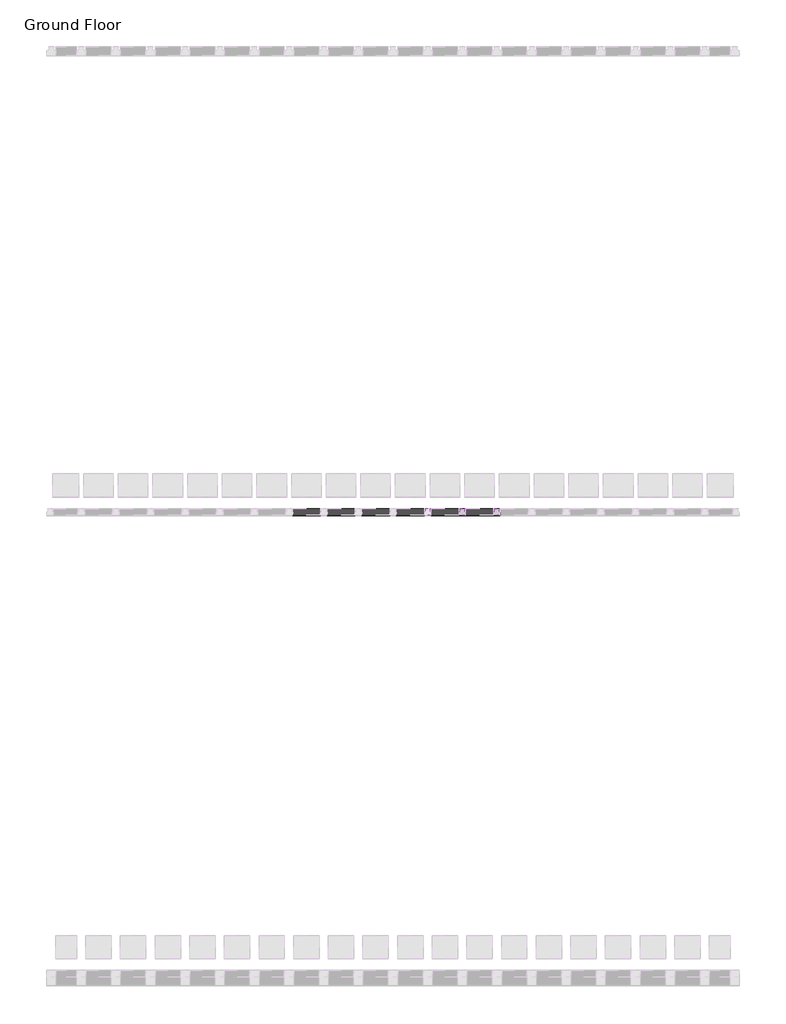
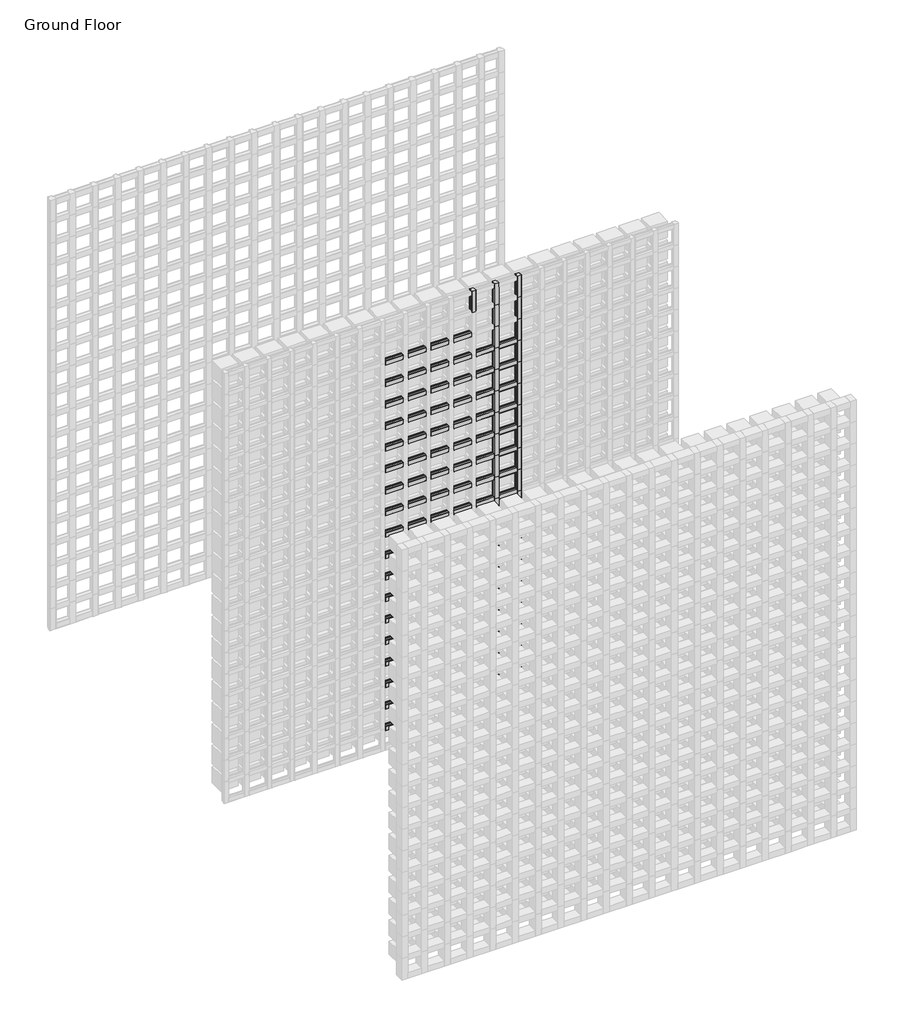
# One storey, part 140 of 350: 145 members.
"""IFC4 building model written with IfcOpenShell, lengths in millimetres."""

from ifc_helpers import new_model, si_unit, origin, place, context, project, spatial, transform, mapped, element, save
from components import rectangular_mullion_01bdf753, rectangular_mullion_f1976eb1

model = new_model("IFC4")

# Units and contexts
model_context = context("Model", 3, world=origin())
ifc_project = project(units=[si_unit("LENGTHUNIT", "METRE", prefix="MILLI")], contexts=[model_context])

# Site, building, storey
site = spatial("IfcSite", under=ifc_project)
building = spatial("IfcBuilding", under=site)
storey = spatial("IfcBuildingStorey", under=building, Name="Ground Floor", Elevation=0.0)

# Members
placement = place(None, origin())
rectangular_mullion_shape = rectangular_mullion_01bdf753(model_context)
element("IfcMember", 1, ObjectType="Rectangular Mullion : Batten_Timber_Modinex_Austratus_Grid_Fin_30x30_Hemlock", at=placement, inside=storey, context=model_context, shape_type="MappedRepresentation", body=[
    mapped(rectangular_mullion_shape, transform((11101.4361642, 42968.2978302, 150.0), x_axis=(0.0, 0.0, 1.0), y_axis=(0.0, -1.0, 0.0), z_axis=(1.0, 0.0, 0.0))),
])
element("IfcMember", 2, ObjectType="Rectangular Mullion : Batten_Timber_Modinex_Austratus_Grid_Fin_30x30_Hemlock", at=placement, inside=storey, context=model_context, shape_type="MappedRepresentation", body=[
    mapped(rectangular_mullion_shape, transform((11251.4361642, 42968.2978302, 150.0), x_axis=(0.0, 0.0, 1.0), y_axis=(0.0, -1.0, 0.0), z_axis=(1.0, 0.0, 0.0))),
])
element("IfcMember", 3, ObjectType="Rectangular Mullion : Batten_Timber_Modinex_Austratus_Grid_Fin_30x30_Hemlock", at=placement, inside=storey, context=model_context, shape_type="MappedRepresentation", body=[
    mapped(rectangular_mullion_shape, transform((11401.4361642, 42968.2978302, 150.0), x_axis=(0.0, 0.0, 1.0), y_axis=(0.0, -1.0, 0.0), z_axis=(1.0, 0.0, 0.0))),
])
element("IfcMember", 4, ObjectType="Rectangular Mullion : Batten_Timber_Modinex_Austratus_Grid_Fin_30x30_Hemlock", at=placement, inside=storey, context=model_context, shape_type="MappedRepresentation", body=[
    mapped(rectangular_mullion_shape, transform((11551.4361642, 42968.2978302, 150.0), x_axis=(0.0, 0.0, 1.0), y_axis=(0.0, -1.0, 0.0), z_axis=(1.0, 0.0, 0.0))),
])
element("IfcMember", 5, ObjectType="Rectangular Mullion : Batten_Timber_Modinex_Austratus_Grid_Fin_30x30_Hemlock", at=placement, inside=storey, context=model_context, shape_type="MappedRepresentation", body=[
    mapped(rectangular_mullion_shape, transform((11701.4361642, 42968.2978302, 150.0), x_axis=(0.0, 0.0, 1.0), y_axis=(0.0, -1.0, 0.0), z_axis=(1.0, 0.0, 0.0))),
])
element("IfcMember", 6, ObjectType="Rectangular Mullion : Batten_Timber_Modinex_Austratus_Grid_Fin_30x30_Hemlock", at=placement, inside=storey, context=model_context, shape_type="MappedRepresentation", body=[
    mapped(rectangular_mullion_shape, transform((11851.4361642, 42968.2978302, 150.0), x_axis=(0.0, 0.0, 1.0), y_axis=(0.0, -1.0, 0.0), z_axis=(1.0, 0.0, 0.0))),
])
element("IfcMember", 7, ObjectType="Rectangular Mullion : Batten_Timber_Modinex_Austratus_Grid_Fin_30x30_Hemlock", at=placement, inside=storey, context=model_context, shape_type="MappedRepresentation", body=[
    mapped(rectangular_mullion_shape, transform((11101.4361642, 42968.2978302, 300.0), x_axis=(0.0, 0.0, 1.0), y_axis=(0.0, -1.0, 0.0), z_axis=(1.0, 0.0, 0.0))),
])
element("IfcMember", 8, ObjectType="Rectangular Mullion : Batten_Timber_Modinex_Austratus_Grid_Fin_30x30_Hemlock", at=placement, inside=storey, context=model_context, shape_type="MappedRepresentation", body=[
    mapped(rectangular_mullion_shape, transform((11251.4361642, 42968.2978302, 300.0), x_axis=(0.0, 0.0, 1.0), y_axis=(0.0, -1.0, 0.0), z_axis=(1.0, 0.0, 0.0))),
])
element("IfcMember", 9, ObjectType="Rectangular Mullion : Batten_Timber_Modinex_Austratus_Grid_Fin_30x30_Hemlock", at=placement, inside=storey, context=model_context, shape_type="MappedRepresentation", body=[
    mapped(rectangular_mullion_shape, transform((11401.4361642, 42968.2978302, 300.0), x_axis=(0.0, 0.0, 1.0), y_axis=(0.0, -1.0, 0.0), z_axis=(1.0, 0.0, 0.0))),
])
element("IfcMember", 10, ObjectType="Rectangular Mullion : Batten_Timber_Modinex_Austratus_Grid_Fin_30x30_Hemlock", at=placement, inside=storey, context=model_context, shape_type="MappedRepresentation", body=[
    mapped(rectangular_mullion_shape, transform((11551.4361642, 42968.2978302, 300.0), x_axis=(0.0, 0.0, 1.0), y_axis=(0.0, -1.0, 0.0), z_axis=(1.0, 0.0, 0.0))),
])
element("IfcMember", 11, ObjectType="Rectangular Mullion : Batten_Timber_Modinex_Austratus_Grid_Fin_30x30_Hemlock", at=placement, inside=storey, context=model_context, shape_type="MappedRepresentation", body=[
    mapped(rectangular_mullion_shape, transform((11701.4361642, 42968.2978302, 300.0), x_axis=(0.0, 0.0, 1.0), y_axis=(0.0, -1.0, 0.0), z_axis=(1.0, 0.0, 0.0))),
])
element("IfcMember", 12, ObjectType="Rectangular Mullion : Batten_Timber_Modinex_Austratus_Grid_Fin_30x30_Hemlock", at=placement, inside=storey, context=model_context, shape_type="MappedRepresentation", body=[
    mapped(rectangular_mullion_shape, transform((11851.4361642, 42968.2978302, 300.0), x_axis=(0.0, 0.0, 1.0), y_axis=(0.0, -1.0, 0.0), z_axis=(1.0, 0.0, 0.0))),
])
element("IfcMember", 13, ObjectType="Rectangular Mullion : Batten_Timber_Modinex_Austratus_Grid_Fin_30x30_Hemlock", at=placement, inside=storey, context=model_context, shape_type="MappedRepresentation", body=[
    mapped(rectangular_mullion_shape, transform((11101.4361642, 42968.2978302, 450.0), x_axis=(0.0, 0.0, 1.0), y_axis=(0.0, -1.0, 0.0), z_axis=(1.0, 0.0, 0.0))),
])
element("IfcMember", 14, ObjectType="Rectangular Mullion : Batten_Timber_Modinex_Austratus_Grid_Fin_30x30_Hemlock", at=placement, inside=storey, context=model_context, shape_type="MappedRepresentation", body=[
    mapped(rectangular_mullion_shape, transform((11251.4361642, 42968.2978302, 450.0), x_axis=(0.0, 0.0, 1.0), y_axis=(0.0, -1.0, 0.0), z_axis=(1.0, 0.0, 0.0))),
])
element("IfcMember", 15, ObjectType="Rectangular Mullion : Batten_Timber_Modinex_Austratus_Grid_Fin_30x30_Hemlock", at=placement, inside=storey, context=model_context, shape_type="MappedRepresentation", body=[
    mapped(rectangular_mullion_shape, transform((11401.4361642, 42968.2978302, 450.0), x_axis=(0.0, 0.0, 1.0), y_axis=(0.0, -1.0, 0.0), z_axis=(1.0, 0.0, 0.0))),
])
element("IfcMember", 16, ObjectType="Rectangular Mullion : Batten_Timber_Modinex_Austratus_Grid_Fin_30x30_Hemlock", at=placement, inside=storey, context=model_context, shape_type="MappedRepresentation", body=[
    mapped(rectangular_mullion_shape, transform((11551.4361642, 42968.2978302, 450.0), x_axis=(0.0, 0.0, 1.0), y_axis=(0.0, -1.0, 0.0), z_axis=(1.0, 0.0, 0.0))),
])
element("IfcMember", 17, ObjectType="Rectangular Mullion : Batten_Timber_Modinex_Austratus_Grid_Fin_30x30_Hemlock", at=placement, inside=storey, context=model_context, shape_type="MappedRepresentation", body=[
    mapped(rectangular_mullion_shape, transform((11701.4361642, 42968.2978302, 450.0), x_axis=(0.0, 0.0, 1.0), y_axis=(0.0, -1.0, 0.0), z_axis=(1.0, 0.0, 0.0))),
])
element("IfcMember", 18, ObjectType="Rectangular Mullion : Batten_Timber_Modinex_Austratus_Grid_Fin_30x30_Hemlock", at=placement, inside=storey, context=model_context, shape_type="MappedRepresentation", body=[
    mapped(rectangular_mullion_shape, transform((11851.4361642, 42968.2978302, 450.0), x_axis=(0.0, 0.0, 1.0), y_axis=(0.0, -1.0, 0.0), z_axis=(1.0, 0.0, 0.0))),
])
element("IfcMember", 19, ObjectType="Rectangular Mullion : Batten_Timber_Modinex_Austratus_Grid_Fin_30x30_Hemlock", at=placement, inside=storey, context=model_context, shape_type="MappedRepresentation", body=[
    mapped(rectangular_mullion_shape, transform((11101.4361642, 42968.2978302, 600.0), x_axis=(0.0, 0.0, 1.0), y_axis=(0.0, -1.0, 0.0), z_axis=(1.0, 0.0, 0.0))),
])
element("IfcMember", 20, ObjectType="Rectangular Mullion : Batten_Timber_Modinex_Austratus_Grid_Fin_30x30_Hemlock", at=placement, inside=storey, context=model_context, shape_type="MappedRepresentation", body=[
    mapped(rectangular_mullion_shape, transform((11251.4361642, 42968.2978302, 600.0), x_axis=(0.0, 0.0, 1.0), y_axis=(0.0, -1.0, 0.0), z_axis=(1.0, 0.0, 0.0))),
])
element("IfcMember", 21, ObjectType="Rectangular Mullion : Batten_Timber_Modinex_Austratus_Grid_Fin_30x30_Hemlock", at=placement, inside=storey, context=model_context, shape_type="MappedRepresentation", body=[
    mapped(rectangular_mullion_shape, transform((11401.4361642, 42968.2978302, 600.0), x_axis=(0.0, 0.0, 1.0), y_axis=(0.0, -1.0, 0.0), z_axis=(1.0, 0.0, 0.0))),
])
element("IfcMember", 22, ObjectType="Rectangular Mullion : Batten_Timber_Modinex_Austratus_Grid_Fin_30x30_Hemlock", at=placement, inside=storey, context=model_context, shape_type="MappedRepresentation", body=[
    mapped(rectangular_mullion_shape, transform((11551.4361642, 42968.2978302, 600.0), x_axis=(0.0, 0.0, 1.0), y_axis=(0.0, -1.0, 0.0), z_axis=(1.0, 0.0, 0.0))),
])
element("IfcMember", 23, ObjectType="Rectangular Mullion : Batten_Timber_Modinex_Austratus_Grid_Fin_30x30_Hemlock", at=placement, inside=storey, context=model_context, shape_type="MappedRepresentation", body=[
    mapped(rectangular_mullion_shape, transform((11701.4361642, 42968.2978302, 600.0), x_axis=(0.0, 0.0, 1.0), y_axis=(0.0, -1.0, 0.0), z_axis=(1.0, 0.0, 0.0))),
])
element("IfcMember", 24, ObjectType="Rectangular Mullion : Batten_Timber_Modinex_Austratus_Grid_Fin_30x30_Hemlock", at=placement, inside=storey, context=model_context, shape_type="MappedRepresentation", body=[
    mapped(rectangular_mullion_shape, transform((11851.4361642, 42968.2978302, 600.0), x_axis=(0.0, 0.0, 1.0), y_axis=(0.0, -1.0, 0.0), z_axis=(1.0, 0.0, 0.0))),
])
element("IfcMember", 25, ObjectType="Rectangular Mullion : Batten_Timber_Modinex_Austratus_Grid_Fin_30x30_Hemlock", at=placement, inside=storey, context=model_context, shape_type="MappedRepresentation", body=[
    mapped(rectangular_mullion_shape, transform((11101.4361642, 42968.2978302, 750.0), x_axis=(0.0, 0.0, 1.0), y_axis=(0.0, -1.0, 0.0), z_axis=(1.0, 0.0, 0.0))),
])
element("IfcMember", 26, ObjectType="Rectangular Mullion : Batten_Timber_Modinex_Austratus_Grid_Fin_30x30_Hemlock", at=placement, inside=storey, context=model_context, shape_type="MappedRepresentation", body=[
    mapped(rectangular_mullion_shape, transform((11251.4361642, 42968.2978302, 750.0), x_axis=(0.0, 0.0, 1.0), y_axis=(0.0, -1.0, 0.0), z_axis=(1.0, 0.0, 0.0))),
])
element("IfcMember", 27, ObjectType="Rectangular Mullion : Batten_Timber_Modinex_Austratus_Grid_Fin_30x30_Hemlock", at=placement, inside=storey, context=model_context, shape_type="MappedRepresentation", body=[
    mapped(rectangular_mullion_shape, transform((11401.4361642, 42968.2978302, 750.0), x_axis=(0.0, 0.0, 1.0), y_axis=(0.0, -1.0, 0.0), z_axis=(1.0, 0.0, 0.0))),
])
element("IfcMember", 28, ObjectType="Rectangular Mullion : Batten_Timber_Modinex_Austratus_Grid_Fin_30x30_Hemlock", at=placement, inside=storey, context=model_context, shape_type="MappedRepresentation", body=[
    mapped(rectangular_mullion_shape, transform((11551.4361642, 42968.2978302, 750.0), x_axis=(0.0, 0.0, 1.0), y_axis=(0.0, -1.0, 0.0), z_axis=(1.0, 0.0, 0.0))),
])
element("IfcMember", 29, ObjectType="Rectangular Mullion : Batten_Timber_Modinex_Austratus_Grid_Fin_30x30_Hemlock", at=placement, inside=storey, context=model_context, shape_type="MappedRepresentation", body=[
    mapped(rectangular_mullion_shape, transform((11701.4361642, 42968.2978302, 750.0), x_axis=(0.0, 0.0, 1.0), y_axis=(0.0, -1.0, 0.0), z_axis=(1.0, 0.0, 0.0))),
])
element("IfcMember", 30, ObjectType="Rectangular Mullion : Batten_Timber_Modinex_Austratus_Grid_Fin_30x30_Hemlock", at=placement, inside=storey, context=model_context, shape_type="MappedRepresentation", body=[
    mapped(rectangular_mullion_shape, transform((11851.4361642, 42968.2978302, 750.0), x_axis=(0.0, 0.0, 1.0), y_axis=(0.0, -1.0, 0.0), z_axis=(1.0, 0.0, 0.0))),
])
element("IfcMember", 31, ObjectType="Rectangular Mullion : Batten_Timber_Modinex_Austratus_Grid_Fin_30x30_Hemlock", at=placement, inside=storey, context=model_context, shape_type="MappedRepresentation", body=[
    mapped(rectangular_mullion_shape, transform((11101.4361642, 42968.2978302, 900.0), x_axis=(0.0, 0.0, 1.0), y_axis=(0.0, -1.0, 0.0), z_axis=(1.0, 0.0, 0.0))),
])
element("IfcMember", 32, ObjectType="Rectangular Mullion : Batten_Timber_Modinex_Austratus_Grid_Fin_30x30_Hemlock", at=placement, inside=storey, context=model_context, shape_type="MappedRepresentation", body=[
    mapped(rectangular_mullion_shape, transform((11251.4361642, 42968.2978302, 900.0), x_axis=(0.0, 0.0, 1.0), y_axis=(0.0, -1.0, 0.0), z_axis=(1.0, 0.0, 0.0))),
])
element("IfcMember", 33, ObjectType="Rectangular Mullion : Batten_Timber_Modinex_Austratus_Grid_Fin_30x30_Hemlock", at=placement, inside=storey, context=model_context, shape_type="MappedRepresentation", body=[
    mapped(rectangular_mullion_shape, transform((11401.4361642, 42968.2978302, 900.0), x_axis=(0.0, 0.0, 1.0), y_axis=(0.0, -1.0, 0.0), z_axis=(1.0, 0.0, 0.0))),
])
element("IfcMember", 34, ObjectType="Rectangular Mullion : Batten_Timber_Modinex_Austratus_Grid_Fin_30x30_Hemlock", at=placement, inside=storey, context=model_context, shape_type="MappedRepresentation", body=[
    mapped(rectangular_mullion_shape, transform((11551.4361642, 42968.2978302, 900.0), x_axis=(0.0, 0.0, 1.0), y_axis=(0.0, -1.0, 0.0), z_axis=(1.0, 0.0, 0.0))),
])
element("IfcMember", 35, ObjectType="Rectangular Mullion : Batten_Timber_Modinex_Austratus_Grid_Fin_30x30_Hemlock", at=placement, inside=storey, context=model_context, shape_type="MappedRepresentation", body=[
    mapped(rectangular_mullion_shape, transform((11701.4361642, 42968.2978302, 900.0), x_axis=(0.0, 0.0, 1.0), y_axis=(0.0, -1.0, 0.0), z_axis=(1.0, 0.0, 0.0))),
])
element("IfcMember", 36, ObjectType="Rectangular Mullion : Batten_Timber_Modinex_Austratus_Grid_Fin_30x30_Hemlock", at=placement, inside=storey, context=model_context, shape_type="MappedRepresentation", body=[
    mapped(rectangular_mullion_shape, transform((11851.4361642, 42968.2978302, 900.0), x_axis=(0.0, 0.0, 1.0), y_axis=(0.0, -1.0, 0.0), z_axis=(1.0, 0.0, 0.0))),
])
element("IfcMember", 37, ObjectType="Rectangular Mullion : Batten_Timber_Modinex_Austratus_Grid_Fin_30x30_Hemlock", at=placement, inside=storey, context=model_context, shape_type="MappedRepresentation", body=[
    mapped(rectangular_mullion_shape, transform((11101.4361642, 42968.2978302, 1050.0), x_axis=(0.0, 0.0, 1.0), y_axis=(0.0, -1.0, 0.0), z_axis=(1.0, 0.0, 0.0))),
])
element("IfcMember", 38, ObjectType="Rectangular Mullion : Batten_Timber_Modinex_Austratus_Grid_Fin_30x30_Hemlock", at=placement, inside=storey, context=model_context, shape_type="MappedRepresentation", body=[
    mapped(rectangular_mullion_shape, transform((11251.4361642, 42968.2978302, 1050.0), x_axis=(0.0, 0.0, 1.0), y_axis=(0.0, -1.0, 0.0), z_axis=(1.0, 0.0, 0.0))),
])
element("IfcMember", 39, ObjectType="Rectangular Mullion : Batten_Timber_Modinex_Austratus_Grid_Fin_30x30_Hemlock", at=placement, inside=storey, context=model_context, shape_type="MappedRepresentation", body=[
    mapped(rectangular_mullion_shape, transform((11401.4361642, 42968.2978302, 1050.0), x_axis=(0.0, 0.0, 1.0), y_axis=(0.0, -1.0, 0.0), z_axis=(1.0, 0.0, 0.0))),
])
element("IfcMember", 40, ObjectType="Rectangular Mullion : Batten_Timber_Modinex_Austratus_Grid_Fin_30x30_Hemlock", at=placement, inside=storey, context=model_context, shape_type="MappedRepresentation", body=[
    mapped(rectangular_mullion_shape, transform((11551.4361642, 42968.2978302, 1050.0), x_axis=(0.0, 0.0, 1.0), y_axis=(0.0, -1.0, 0.0), z_axis=(1.0, 0.0, 0.0))),
])
element("IfcMember", 41, ObjectType="Rectangular Mullion : Batten_Timber_Modinex_Austratus_Grid_Fin_30x30_Hemlock", at=placement, inside=storey, context=model_context, shape_type="MappedRepresentation", body=[
    mapped(rectangular_mullion_shape, transform((11701.4361642, 42968.2978302, 1050.0), x_axis=(0.0, 0.0, 1.0), y_axis=(0.0, -1.0, 0.0), z_axis=(1.0, 0.0, 0.0))),
])
element("IfcMember", 42, ObjectType="Rectangular Mullion : Batten_Timber_Modinex_Austratus_Grid_Fin_30x30_Hemlock", at=placement, inside=storey, context=model_context, shape_type="MappedRepresentation", body=[
    mapped(rectangular_mullion_shape, transform((11851.4361642, 42968.2978302, 1050.0), x_axis=(0.0, 0.0, 1.0), y_axis=(0.0, -1.0, 0.0), z_axis=(1.0, 0.0, 0.0))),
])
element("IfcMember", 43, ObjectType="Rectangular Mullion : Batten_Timber_Modinex_Austratus_Grid_Fin_30x30_Hemlock", at=placement, inside=storey, context=model_context, shape_type="MappedRepresentation", body=[
    mapped(rectangular_mullion_shape, transform((11101.4361642, 42968.2978302, 1200.0), x_axis=(0.0, 0.0, 1.0), y_axis=(0.0, -1.0, 0.0), z_axis=(1.0, 0.0, 0.0))),
])
element("IfcMember", 44, ObjectType="Rectangular Mullion : Batten_Timber_Modinex_Austratus_Grid_Fin_30x30_Hemlock", at=placement, inside=storey, context=model_context, shape_type="MappedRepresentation", body=[
    mapped(rectangular_mullion_shape, transform((11251.4361642, 42968.2978302, 1200.0), x_axis=(0.0, 0.0, 1.0), y_axis=(0.0, -1.0, 0.0), z_axis=(1.0, 0.0, 0.0))),
])
element("IfcMember", 45, ObjectType="Rectangular Mullion : Batten_Timber_Modinex_Austratus_Grid_Fin_30x30_Hemlock", at=placement, inside=storey, context=model_context, shape_type="MappedRepresentation", body=[
    mapped(rectangular_mullion_shape, transform((11401.4361642, 42968.2978302, 1200.0), x_axis=(0.0, 0.0, 1.0), y_axis=(0.0, -1.0, 0.0), z_axis=(1.0, 0.0, 0.0))),
])
element("IfcMember", 46, ObjectType="Rectangular Mullion : Batten_Timber_Modinex_Austratus_Grid_Fin_30x30_Hemlock", at=placement, inside=storey, context=model_context, shape_type="MappedRepresentation", body=[
    mapped(rectangular_mullion_shape, transform((11551.4361642, 42968.2978302, 1200.0), x_axis=(0.0, 0.0, 1.0), y_axis=(0.0, -1.0, 0.0), z_axis=(1.0, 0.0, 0.0))),
])
element("IfcMember", 47, ObjectType="Rectangular Mullion : Batten_Timber_Modinex_Austratus_Grid_Fin_30x30_Hemlock", at=placement, inside=storey, context=model_context, shape_type="MappedRepresentation", body=[
    mapped(rectangular_mullion_shape, transform((11701.4361642, 42968.2978302, 1200.0), x_axis=(0.0, 0.0, 1.0), y_axis=(0.0, -1.0, 0.0), z_axis=(1.0, 0.0, 0.0))),
])
element("IfcMember", 48, ObjectType="Rectangular Mullion : Batten_Timber_Modinex_Austratus_Grid_Fin_30x30_Hemlock", at=placement, inside=storey, context=model_context, shape_type="MappedRepresentation", body=[
    mapped(rectangular_mullion_shape, transform((11851.4361642, 42968.2978302, 1200.0), x_axis=(0.0, 0.0, 1.0), y_axis=(0.0, -1.0, 0.0), z_axis=(1.0, 0.0, 0.0))),
])
element("IfcMember", 49, ObjectType="Rectangular Mullion : Batten_Timber_Modinex_Austratus_Grid_Fin_30x30_Hemlock", at=placement, inside=storey, context=model_context, shape_type="MappedRepresentation", body=[
    mapped(rectangular_mullion_shape, transform((11101.4361642, 42968.2978302, 1350.0), x_axis=(0.0, 0.0, 1.0), y_axis=(0.0, -1.0, 0.0), z_axis=(1.0, 0.0, 0.0))),
])
element("IfcMember", 50, ObjectType="Rectangular Mullion : Batten_Timber_Modinex_Austratus_Grid_Fin_30x30_Hemlock", at=placement, inside=storey, context=model_context, shape_type="MappedRepresentation", body=[
    mapped(rectangular_mullion_shape, transform((11251.4361642, 42968.2978302, 1350.0), x_axis=(0.0, 0.0, 1.0), y_axis=(0.0, -1.0, 0.0), z_axis=(1.0, 0.0, 0.0))),
])
element("IfcMember", 51, ObjectType="Rectangular Mullion : Batten_Timber_Modinex_Austratus_Grid_Fin_30x30_Hemlock", at=placement, inside=storey, context=model_context, shape_type="MappedRepresentation", body=[
    mapped(rectangular_mullion_shape, transform((11401.4361642, 42968.2978302, 1350.0), x_axis=(0.0, 0.0, 1.0), y_axis=(0.0, -1.0, 0.0), z_axis=(1.0, 0.0, 0.0))),
])
element("IfcMember", 52, ObjectType="Rectangular Mullion : Batten_Timber_Modinex_Austratus_Grid_Fin_30x30_Hemlock", at=placement, inside=storey, context=model_context, shape_type="MappedRepresentation", body=[
    mapped(rectangular_mullion_shape, transform((11551.4361642, 42968.2978302, 1350.0), x_axis=(0.0, 0.0, 1.0), y_axis=(0.0, -1.0, 0.0), z_axis=(1.0, 0.0, 0.0))),
])
element("IfcMember", 53, ObjectType="Rectangular Mullion : Batten_Timber_Modinex_Austratus_Grid_Fin_30x30_Hemlock", at=placement, inside=storey, context=model_context, shape_type="MappedRepresentation", body=[
    mapped(rectangular_mullion_shape, transform((11701.4361642, 42968.2978302, 1350.0), x_axis=(0.0, 0.0, 1.0), y_axis=(0.0, -1.0, 0.0), z_axis=(1.0, 0.0, 0.0))),
])
element("IfcMember", 54, ObjectType="Rectangular Mullion : Batten_Timber_Modinex_Austratus_Grid_Fin_30x30_Hemlock", at=placement, inside=storey, context=model_context, shape_type="MappedRepresentation", body=[
    mapped(rectangular_mullion_shape, transform((11851.4361642, 42968.2978302, 1350.0), x_axis=(0.0, 0.0, 1.0), y_axis=(0.0, -1.0, 0.0), z_axis=(1.0, 0.0, 0.0))),
])
element("IfcMember", 55, ObjectType="Rectangular Mullion : Batten_Timber_Modinex_Austratus_Grid_Fin_30x30_Hemlock", at=placement, inside=storey, context=model_context, shape_type="MappedRepresentation", body=[
    mapped(rectangular_mullion_shape, transform((11101.4361642, 42968.2978302, 1500.0), x_axis=(0.0, 0.0, 1.0), y_axis=(0.0, -1.0, 0.0), z_axis=(1.0, 0.0, 0.0))),
])
element("IfcMember", 56, ObjectType="Rectangular Mullion : Batten_Timber_Modinex_Austratus_Grid_Fin_30x30_Hemlock", at=placement, inside=storey, context=model_context, shape_type="MappedRepresentation", body=[
    mapped(rectangular_mullion_shape, transform((11251.4361642, 42968.2978302, 1500.0), x_axis=(0.0, 0.0, 1.0), y_axis=(0.0, -1.0, 0.0), z_axis=(1.0, 0.0, 0.0))),
])
element("IfcMember", 57, ObjectType="Rectangular Mullion : Batten_Timber_Modinex_Austratus_Grid_Fin_30x30_Hemlock", at=placement, inside=storey, context=model_context, shape_type="MappedRepresentation", body=[
    mapped(rectangular_mullion_shape, transform((11401.4361642, 42968.2978302, 1500.0), x_axis=(0.0, 0.0, 1.0), y_axis=(0.0, -1.0, 0.0), z_axis=(1.0, 0.0, 0.0))),
])
element("IfcMember", 58, ObjectType="Rectangular Mullion : Batten_Timber_Modinex_Austratus_Grid_Fin_30x30_Hemlock", at=placement, inside=storey, context=model_context, shape_type="MappedRepresentation", body=[
    mapped(rectangular_mullion_shape, transform((11551.4361642, 42968.2978302, 1500.0), x_axis=(0.0, 0.0, 1.0), y_axis=(0.0, -1.0, 0.0), z_axis=(1.0, 0.0, 0.0))),
])
element("IfcMember", 59, ObjectType="Rectangular Mullion : Batten_Timber_Modinex_Austratus_Grid_Fin_30x30_Hemlock", at=placement, inside=storey, context=model_context, shape_type="MappedRepresentation", body=[
    mapped(rectangular_mullion_shape, transform((11701.4361642, 42968.2978302, 1500.0), x_axis=(0.0, 0.0, 1.0), y_axis=(0.0, -1.0, 0.0), z_axis=(1.0, 0.0, 0.0))),
])
element("IfcMember", 60, ObjectType="Rectangular Mullion : Batten_Timber_Modinex_Austratus_Grid_Fin_30x30_Hemlock", at=placement, inside=storey, context=model_context, shape_type="MappedRepresentation", body=[
    mapped(rectangular_mullion_shape, transform((11851.4361642, 42968.2978302, 1500.0), x_axis=(0.0, 0.0, 1.0), y_axis=(0.0, -1.0, 0.0), z_axis=(1.0, 0.0, 0.0))),
])
element("IfcMember", 61, ObjectType="Rectangular Mullion : Batten_Timber_Modinex_Austratus_Grid_Fin_30x30_Hemlock", at=placement, inside=storey, context=model_context, shape_type="MappedRepresentation", body=[
    mapped(rectangular_mullion_shape, transform((11101.4361642, 42968.2978302, 1650.0), x_axis=(0.0, 0.0, 1.0), y_axis=(0.0, -1.0, 0.0), z_axis=(1.0, 0.0, 0.0))),
])
element("IfcMember", 62, ObjectType="Rectangular Mullion : Batten_Timber_Modinex_Austratus_Grid_Fin_30x30_Hemlock", at=placement, inside=storey, context=model_context, shape_type="MappedRepresentation", body=[
    mapped(rectangular_mullion_shape, transform((11251.4361642, 42968.2978302, 1650.0), x_axis=(0.0, 0.0, 1.0), y_axis=(0.0, -1.0, 0.0), z_axis=(1.0, 0.0, 0.0))),
])
element("IfcMember", 63, ObjectType="Rectangular Mullion : Batten_Timber_Modinex_Austratus_Grid_Fin_30x30_Hemlock", at=placement, inside=storey, context=model_context, shape_type="MappedRepresentation", body=[
    mapped(rectangular_mullion_shape, transform((11401.4361642, 42968.2978302, 1650.0), x_axis=(0.0, 0.0, 1.0), y_axis=(0.0, -1.0, 0.0), z_axis=(1.0, 0.0, 0.0))),
])
element("IfcMember", 64, ObjectType="Rectangular Mullion : Batten_Timber_Modinex_Austratus_Grid_Fin_30x30_Hemlock", at=placement, inside=storey, context=model_context, shape_type="MappedRepresentation", body=[
    mapped(rectangular_mullion_shape, transform((11551.4361642, 42968.2978302, 1650.0), x_axis=(0.0, 0.0, 1.0), y_axis=(0.0, -1.0, 0.0), z_axis=(1.0, 0.0, 0.0))),
])
element("IfcMember", 65, ObjectType="Rectangular Mullion : Batten_Timber_Modinex_Austratus_Grid_Fin_30x30_Hemlock", at=placement, inside=storey, context=model_context, shape_type="MappedRepresentation", body=[
    mapped(rectangular_mullion_shape, transform((11701.4361642, 42968.2978302, 1650.0), x_axis=(0.0, 0.0, 1.0), y_axis=(0.0, -1.0, 0.0), z_axis=(1.0, 0.0, 0.0))),
])
element("IfcMember", 66, ObjectType="Rectangular Mullion : Batten_Timber_Modinex_Austratus_Grid_Fin_30x30_Hemlock", at=placement, inside=storey, context=model_context, shape_type="MappedRepresentation", body=[
    mapped(rectangular_mullion_shape, transform((11851.4361642, 42968.2978302, 1650.0), x_axis=(0.0, 0.0, 1.0), y_axis=(0.0, -1.0, 0.0), z_axis=(1.0, 0.0, 0.0))),
])
element("IfcMember", 67, ObjectType="Rectangular Mullion : Batten_Timber_Modinex_Austratus_Grid_Fin_30x30_Hemlock", at=placement, inside=storey, context=model_context, shape_type="MappedRepresentation", body=[
    mapped(rectangular_mullion_shape, transform((11101.4361642, 42968.2978302, 1800.0), x_axis=(0.0, 0.0, 1.0), y_axis=(0.0, -1.0, 0.0), z_axis=(1.0, 0.0, 0.0))),
])
element("IfcMember", 68, ObjectType="Rectangular Mullion : Batten_Timber_Modinex_Austratus_Grid_Fin_30x30_Hemlock", at=placement, inside=storey, context=model_context, shape_type="MappedRepresentation", body=[
    mapped(rectangular_mullion_shape, transform((11251.4361642, 42968.2978302, 1800.0), x_axis=(0.0, 0.0, 1.0), y_axis=(0.0, -1.0, 0.0), z_axis=(1.0, 0.0, 0.0))),
])
element("IfcMember", 69, ObjectType="Rectangular Mullion : Batten_Timber_Modinex_Austratus_Grid_Fin_30x30_Hemlock", at=placement, inside=storey, context=model_context, shape_type="MappedRepresentation", body=[
    mapped(rectangular_mullion_shape, transform((11401.4361642, 42968.2978302, 1800.0), x_axis=(0.0, 0.0, 1.0), y_axis=(0.0, -1.0, 0.0), z_axis=(1.0, 0.0, 0.0))),
])
element("IfcMember", 70, ObjectType="Rectangular Mullion : Batten_Timber_Modinex_Austratus_Grid_Fin_30x30_Hemlock", at=placement, inside=storey, context=model_context, shape_type="MappedRepresentation", body=[
    mapped(rectangular_mullion_shape, transform((11551.4361642, 42968.2978302, 1800.0), x_axis=(0.0, 0.0, 1.0), y_axis=(0.0, -1.0, 0.0), z_axis=(1.0, 0.0, 0.0))),
])
element("IfcMember", 71, ObjectType="Rectangular Mullion : Batten_Timber_Modinex_Austratus_Grid_Fin_30x30_Hemlock", at=placement, inside=storey, context=model_context, shape_type="MappedRepresentation", body=[
    mapped(rectangular_mullion_shape, transform((11701.4361642, 42968.2978302, 1800.0), x_axis=(0.0, 0.0, 1.0), y_axis=(0.0, -1.0, 0.0), z_axis=(1.0, 0.0, 0.0))),
])
element("IfcMember", 72, ObjectType="Rectangular Mullion : Batten_Timber_Modinex_Austratus_Grid_Fin_30x30_Hemlock", at=placement, inside=storey, context=model_context, shape_type="MappedRepresentation", body=[
    mapped(rectangular_mullion_shape, transform((11851.4361642, 42968.2978302, 1800.0), x_axis=(0.0, 0.0, 1.0), y_axis=(0.0, -1.0, 0.0), z_axis=(1.0, 0.0, 0.0))),
])
element("IfcMember", 73, ObjectType="Rectangular Mullion : Batten_Timber_Modinex_Austratus_Grid_Fin_30x30_Hemlock", at=placement, inside=storey, context=model_context, shape_type="MappedRepresentation", body=[
    mapped(rectangular_mullion_shape, transform((11101.4361642, 42968.2978302, 1950.0), x_axis=(0.0, 0.0, 1.0), y_axis=(0.0, -1.0, 0.0), z_axis=(1.0, 0.0, 0.0))),
])
element("IfcMember", 74, ObjectType="Rectangular Mullion : Batten_Timber_Modinex_Austratus_Grid_Fin_30x30_Hemlock", at=placement, inside=storey, context=model_context, shape_type="MappedRepresentation", body=[
    mapped(rectangular_mullion_shape, transform((11251.4361642, 42968.2978302, 1950.0), x_axis=(0.0, 0.0, 1.0), y_axis=(0.0, -1.0, 0.0), z_axis=(1.0, 0.0, 0.0))),
])
element("IfcMember", 75, ObjectType="Rectangular Mullion : Batten_Timber_Modinex_Austratus_Grid_Fin_30x30_Hemlock", at=placement, inside=storey, context=model_context, shape_type="MappedRepresentation", body=[
    mapped(rectangular_mullion_shape, transform((11401.4361642, 42968.2978302, 1950.0), x_axis=(0.0, 0.0, 1.0), y_axis=(0.0, -1.0, 0.0), z_axis=(1.0, 0.0, 0.0))),
])
element("IfcMember", 76, ObjectType="Rectangular Mullion : Batten_Timber_Modinex_Austratus_Grid_Fin_30x30_Hemlock", at=placement, inside=storey, context=model_context, shape_type="MappedRepresentation", body=[
    mapped(rectangular_mullion_shape, transform((11551.4361642, 42968.2978302, 1950.0), x_axis=(0.0, 0.0, 1.0), y_axis=(0.0, -1.0, 0.0), z_axis=(1.0, 0.0, 0.0))),
])
element("IfcMember", 77, ObjectType="Rectangular Mullion : Batten_Timber_Modinex_Austratus_Grid_Fin_30x30_Hemlock", at=placement, inside=storey, context=model_context, shape_type="MappedRepresentation", body=[
    mapped(rectangular_mullion_shape, transform((11701.4361642, 42968.2978302, 1950.0), x_axis=(0.0, 0.0, 1.0), y_axis=(0.0, -1.0, 0.0), z_axis=(1.0, 0.0, 0.0))),
])
element("IfcMember", 78, ObjectType="Rectangular Mullion : Batten_Timber_Modinex_Austratus_Grid_Fin_30x30_Hemlock", at=placement, inside=storey, context=model_context, shape_type="MappedRepresentation", body=[
    mapped(rectangular_mullion_shape, transform((11851.4361642, 42968.2978302, 1950.0), x_axis=(0.0, 0.0, 1.0), y_axis=(0.0, -1.0, 0.0), z_axis=(1.0, 0.0, 0.0))),
])
element("IfcMember", 79, ObjectType="Rectangular Mullion : Batten_Timber_Modinex_Austratus_Grid_Fin_30x30_Hemlock", at=placement, inside=storey, context=model_context, shape_type="MappedRepresentation", body=[
    mapped(rectangular_mullion_shape, transform((11101.4361642, 42968.2978302, 2100.0), x_axis=(0.0, 0.0, 1.0), y_axis=(0.0, -1.0, 0.0), z_axis=(1.0, 0.0, 0.0))),
])
element("IfcMember", 80, ObjectType="Rectangular Mullion : Batten_Timber_Modinex_Austratus_Grid_Fin_30x30_Hemlock", at=placement, inside=storey, context=model_context, shape_type="MappedRepresentation", body=[
    mapped(rectangular_mullion_shape, transform((11251.4361642, 42968.2978302, 2100.0), x_axis=(0.0, 0.0, 1.0), y_axis=(0.0, -1.0, 0.0), z_axis=(1.0, 0.0, 0.0))),
])
element("IfcMember", 81, ObjectType="Rectangular Mullion : Batten_Timber_Modinex_Austratus_Grid_Fin_30x30_Hemlock", at=placement, inside=storey, context=model_context, shape_type="MappedRepresentation", body=[
    mapped(rectangular_mullion_shape, transform((11401.4361642, 42968.2978302, 2100.0), x_axis=(0.0, 0.0, 1.0), y_axis=(0.0, -1.0, 0.0), z_axis=(1.0, 0.0, 0.0))),
])
element("IfcMember", 82, ObjectType="Rectangular Mullion : Batten_Timber_Modinex_Austratus_Grid_Fin_30x30_Hemlock", at=placement, inside=storey, context=model_context, shape_type="MappedRepresentation", body=[
    mapped(rectangular_mullion_shape, transform((11551.4361642, 42968.2978302, 2100.0), x_axis=(0.0, 0.0, 1.0), y_axis=(0.0, -1.0, 0.0), z_axis=(1.0, 0.0, 0.0))),
])
element("IfcMember", 83, ObjectType="Rectangular Mullion : Batten_Timber_Modinex_Austratus_Grid_Fin_30x30_Hemlock", at=placement, inside=storey, context=model_context, shape_type="MappedRepresentation", body=[
    mapped(rectangular_mullion_shape, transform((11701.4361642, 42968.2978302, 2100.0), x_axis=(0.0, 0.0, 1.0), y_axis=(0.0, -1.0, 0.0), z_axis=(1.0, 0.0, 0.0))),
])
element("IfcMember", 84, ObjectType="Rectangular Mullion : Batten_Timber_Modinex_Austratus_Grid_Fin_30x30_Hemlock", at=placement, inside=storey, context=model_context, shape_type="MappedRepresentation", body=[
    mapped(rectangular_mullion_shape, transform((11851.4361642, 42968.2978302, 2100.0), x_axis=(0.0, 0.0, 1.0), y_axis=(0.0, -1.0, 0.0), z_axis=(1.0, 0.0, 0.0))),
])
element("IfcMember", 85, ObjectType="Rectangular Mullion : Batten_Timber_Modinex_Austratus_Grid_Fin_30x30_Hemlock", at=placement, inside=storey, context=model_context, shape_type="MappedRepresentation", body=[
    mapped(rectangular_mullion_shape, transform((11101.4361642, 42968.2978302, 2250.0), x_axis=(0.0, 0.0, 1.0), y_axis=(0.0, -1.0, 0.0), z_axis=(1.0, 0.0, 0.0))),
])
element("IfcMember", 86, ObjectType="Rectangular Mullion : Batten_Timber_Modinex_Austratus_Grid_Fin_30x30_Hemlock", at=placement, inside=storey, context=model_context, shape_type="MappedRepresentation", body=[
    mapped(rectangular_mullion_shape, transform((11251.4361642, 42968.2978302, 2250.0), x_axis=(0.0, 0.0, 1.0), y_axis=(0.0, -1.0, 0.0), z_axis=(1.0, 0.0, 0.0))),
])
element("IfcMember", 87, ObjectType="Rectangular Mullion : Batten_Timber_Modinex_Austratus_Grid_Fin_30x30_Hemlock", at=placement, inside=storey, context=model_context, shape_type="MappedRepresentation", body=[
    mapped(rectangular_mullion_shape, transform((11401.4361642, 42968.2978302, 2250.0), x_axis=(0.0, 0.0, 1.0), y_axis=(0.0, -1.0, 0.0), z_axis=(1.0, 0.0, 0.0))),
])
element("IfcMember", 88, ObjectType="Rectangular Mullion : Batten_Timber_Modinex_Austratus_Grid_Fin_30x30_Hemlock", at=placement, inside=storey, context=model_context, shape_type="MappedRepresentation", body=[
    mapped(rectangular_mullion_shape, transform((11551.4361642, 42968.2978302, 2250.0), x_axis=(0.0, 0.0, 1.0), y_axis=(0.0, -1.0, 0.0), z_axis=(1.0, 0.0, 0.0))),
])
element("IfcMember", 89, ObjectType="Rectangular Mullion : Batten_Timber_Modinex_Austratus_Grid_Fin_30x30_Hemlock", at=placement, inside=storey, context=model_context, shape_type="MappedRepresentation", body=[
    mapped(rectangular_mullion_shape, transform((11701.4361642, 42968.2978302, 2250.0), x_axis=(0.0, 0.0, 1.0), y_axis=(0.0, -1.0, 0.0), z_axis=(1.0, 0.0, 0.0))),
])
element("IfcMember", 90, ObjectType="Rectangular Mullion : Batten_Timber_Modinex_Austratus_Grid_Fin_30x30_Hemlock", at=placement, inside=storey, context=model_context, shape_type="MappedRepresentation", body=[
    mapped(rectangular_mullion_shape, transform((11851.4361642, 42968.2978302, 2250.0), x_axis=(0.0, 0.0, 1.0), y_axis=(0.0, -1.0, 0.0), z_axis=(1.0, 0.0, 0.0))),
])
element("IfcMember", 91, ObjectType="Rectangular Mullion : Batten_Timber_Modinex_Austratus_Grid_Fin_30x30_Hemlock", at=placement, inside=storey, context=model_context, shape_type="MappedRepresentation", body=[
    mapped(rectangular_mullion_shape, transform((11101.4361642, 42968.2978302, 2400.0), x_axis=(0.0, 0.0, 1.0), y_axis=(0.0, -1.0, 0.0), z_axis=(1.0, 0.0, 0.0))),
])
element("IfcMember", 92, ObjectType="Rectangular Mullion : Batten_Timber_Modinex_Austratus_Grid_Fin_30x30_Hemlock", at=placement, inside=storey, context=model_context, shape_type="MappedRepresentation", body=[
    mapped(rectangular_mullion_shape, transform((11251.4361642, 42968.2978302, 2400.0), x_axis=(0.0, 0.0, 1.0), y_axis=(0.0, -1.0, 0.0), z_axis=(1.0, 0.0, 0.0))),
])
element("IfcMember", 93, ObjectType="Rectangular Mullion : Batten_Timber_Modinex_Austratus_Grid_Fin_30x30_Hemlock", at=placement, inside=storey, context=model_context, shape_type="MappedRepresentation", body=[
    mapped(rectangular_mullion_shape, transform((11401.4361642, 42968.2978302, 2400.0), x_axis=(0.0, 0.0, 1.0), y_axis=(0.0, -1.0, 0.0), z_axis=(1.0, 0.0, 0.0))),
])
element("IfcMember", 94, ObjectType="Rectangular Mullion : Batten_Timber_Modinex_Austratus_Grid_Fin_30x30_Hemlock", at=placement, inside=storey, context=model_context, shape_type="MappedRepresentation", body=[
    mapped(rectangular_mullion_shape, transform((11551.4361642, 42968.2978302, 2400.0), x_axis=(0.0, 0.0, 1.0), y_axis=(0.0, -1.0, 0.0), z_axis=(1.0, 0.0, 0.0))),
])
element("IfcMember", 95, ObjectType="Rectangular Mullion : Batten_Timber_Modinex_Austratus_Grid_Fin_30x30_Hemlock", at=placement, inside=storey, context=model_context, shape_type="MappedRepresentation", body=[
    mapped(rectangular_mullion_shape, transform((11701.4361642, 42968.2978302, 2400.0), x_axis=(0.0, 0.0, 1.0), y_axis=(0.0, -1.0, 0.0), z_axis=(1.0, 0.0, 0.0))),
])
element("IfcMember", 96, ObjectType="Rectangular Mullion : Batten_Timber_Modinex_Austratus_Grid_Fin_30x30_Hemlock", at=placement, inside=storey, context=model_context, shape_type="MappedRepresentation", body=[
    mapped(rectangular_mullion_shape, transform((11851.4361642, 42968.2978302, 2400.0), x_axis=(0.0, 0.0, 1.0), y_axis=(0.0, -1.0, 0.0), z_axis=(1.0, 0.0, 0.0))),
])
element("IfcMember", 97, ObjectType="Rectangular Mullion : Batten_Timber_Modinex_Austratus_Grid_Fin_30x30_Hemlock", at=placement, inside=storey, context=model_context, shape_type="MappedRepresentation", body=[
    mapped(rectangular_mullion_shape, transform((11101.4361642, 42968.2978302, 2550.0), x_axis=(0.0, 0.0, 1.0), y_axis=(0.0, -1.0, 0.0), z_axis=(1.0, 0.0, 0.0))),
])
element("IfcMember", 98, ObjectType="Rectangular Mullion : Batten_Timber_Modinex_Austratus_Grid_Fin_30x30_Hemlock", at=placement, inside=storey, context=model_context, shape_type="MappedRepresentation", body=[
    mapped(rectangular_mullion_shape, transform((11251.4361642, 42968.2978302, 2550.0), x_axis=(0.0, 0.0, 1.0), y_axis=(0.0, -1.0, 0.0), z_axis=(1.0, 0.0, 0.0))),
])
element("IfcMember", 99, ObjectType="Rectangular Mullion : Batten_Timber_Modinex_Austratus_Grid_Fin_30x30_Hemlock", at=placement, inside=storey, context=model_context, shape_type="MappedRepresentation", body=[
    mapped(rectangular_mullion_shape, transform((11401.4361642, 42968.2978302, 2550.0), x_axis=(0.0, 0.0, 1.0), y_axis=(0.0, -1.0, 0.0), z_axis=(1.0, 0.0, 0.0))),
])
element("IfcMember", 100, ObjectType="Rectangular Mullion : Batten_Timber_Modinex_Austratus_Grid_Fin_30x30_Hemlock", at=placement, inside=storey, context=model_context, shape_type="MappedRepresentation", body=[
    mapped(rectangular_mullion_shape, transform((11551.4361642, 42968.2978302, 2550.0), x_axis=(0.0, 0.0, 1.0), y_axis=(0.0, -1.0, 0.0), z_axis=(1.0, 0.0, 0.0))),
])
element("IfcMember", 101, ObjectType="Rectangular Mullion : Batten_Timber_Modinex_Austratus_Grid_Fin_30x30_Hemlock", at=placement, inside=storey, context=model_context, shape_type="MappedRepresentation", body=[
    mapped(rectangular_mullion_shape, transform((11701.4361642, 42968.2978302, 2550.0), x_axis=(0.0, 0.0, 1.0), y_axis=(0.0, -1.0, 0.0), z_axis=(1.0, 0.0, 0.0))),
])
element("IfcMember", 102, ObjectType="Rectangular Mullion : Batten_Timber_Modinex_Austratus_Grid_Fin_30x30_Hemlock", at=placement, inside=storey, context=model_context, shape_type="MappedRepresentation", body=[
    mapped(rectangular_mullion_shape, transform((11851.4361642, 42968.2978302, 2550.0), x_axis=(0.0, 0.0, 1.0), y_axis=(0.0, -1.0, 0.0), z_axis=(1.0, 0.0, 0.0))),
])
element("IfcMember", 103, ObjectType="Rectangular Mullion : Batten_Timber_Modinex_Austratus_Grid_Fin_30x30_Hemlock", at=placement, inside=storey, context=model_context, shape_type="MappedRepresentation", body=[
    mapped(rectangular_mullion_shape, transform((11101.4361642, 42968.2978302, 2700.0), x_axis=(0.0, 0.0, 1.0), y_axis=(0.0, -1.0, 0.0), z_axis=(1.0, 0.0, 0.0))),
])
element("IfcMember", 104, ObjectType="Rectangular Mullion : Batten_Timber_Modinex_Austratus_Grid_Fin_30x30_Hemlock", at=placement, inside=storey, context=model_context, shape_type="MappedRepresentation", body=[
    mapped(rectangular_mullion_shape, transform((11251.4361642, 42968.2978302, 2700.0), x_axis=(0.0, 0.0, 1.0), y_axis=(0.0, -1.0, 0.0), z_axis=(1.0, 0.0, 0.0))),
])
element("IfcMember", 105, ObjectType="Rectangular Mullion : Batten_Timber_Modinex_Austratus_Grid_Fin_30x30_Hemlock", at=placement, inside=storey, context=model_context, shape_type="MappedRepresentation", body=[
    mapped(rectangular_mullion_shape, transform((11401.4361642, 42968.2978302, 2700.0), x_axis=(0.0, 0.0, 1.0), y_axis=(0.0, -1.0, 0.0), z_axis=(1.0, 0.0, 0.0))),
])
element("IfcMember", 106, ObjectType="Rectangular Mullion : Batten_Timber_Modinex_Austratus_Grid_Fin_30x30_Hemlock", at=placement, inside=storey, context=model_context, shape_type="MappedRepresentation", body=[
    mapped(rectangular_mullion_shape, transform((11551.4361642, 42968.2978302, 2700.0), x_axis=(0.0, 0.0, 1.0), y_axis=(0.0, -1.0, 0.0), z_axis=(1.0, 0.0, 0.0))),
])
rectangular_mullion_2_shape = rectangular_mullion_f1976eb1(model_context)
element("IfcMember", 107, ObjectType="Rectangular Mullion : Batten_Timber_Modinex_Austratus_Grid_Fin_30x30_Hemlock", at=placement, inside=storey, context=model_context, shape_type="MappedRepresentation", body=[
    mapped(rectangular_mullion_2_shape, transform((11716.4361642, 42968.2978302, 150.0), x_axis=(1.0, 0.0, 0.0), y_axis=(0.0, -1.0, 0.0), z_axis=(0.0, 0.0, -1.0))),
])
element("IfcMember", 108, ObjectType="Rectangular Mullion : Batten_Timber_Modinex_Austratus_Grid_Fin_30x30_Hemlock", at=placement, inside=storey, context=model_context, shape_type="MappedRepresentation", body=[
    mapped(rectangular_mullion_2_shape, transform((11716.4361642, 42968.2978302, 300.0), x_axis=(1.0, 0.0, 0.0), y_axis=(0.0, -1.0, 0.0), z_axis=(0.0, 0.0, -1.0))),
])
element("IfcMember", 109, ObjectType="Rectangular Mullion : Batten_Timber_Modinex_Austratus_Grid_Fin_30x30_Hemlock", at=placement, inside=storey, context=model_context, shape_type="MappedRepresentation", body=[
    mapped(rectangular_mullion_2_shape, transform((11716.4361642, 42968.2978302, 450.0), x_axis=(1.0, 0.0, 0.0), y_axis=(0.0, -1.0, 0.0), z_axis=(0.0, 0.0, -1.0))),
])
element("IfcMember", 110, ObjectType="Rectangular Mullion : Batten_Timber_Modinex_Austratus_Grid_Fin_30x30_Hemlock", at=placement, inside=storey, context=model_context, shape_type="MappedRepresentation", body=[
    mapped(rectangular_mullion_2_shape, transform((11716.4361642, 42968.2978302, 600.0), x_axis=(1.0, 0.0, 0.0), y_axis=(0.0, -1.0, 0.0), z_axis=(0.0, 0.0, -1.0))),
])
element("IfcMember", 111, ObjectType="Rectangular Mullion : Batten_Timber_Modinex_Austratus_Grid_Fin_30x30_Hemlock", at=placement, inside=storey, context=model_context, shape_type="MappedRepresentation", body=[
    mapped(rectangular_mullion_2_shape, transform((11716.4361642, 42968.2978302, 750.0), x_axis=(1.0, 0.0, 0.0), y_axis=(0.0, -1.0, 0.0), z_axis=(0.0, 0.0, -1.0))),
])
element("IfcMember", 112, ObjectType="Rectangular Mullion : Batten_Timber_Modinex_Austratus_Grid_Fin_30x30_Hemlock", at=placement, inside=storey, context=model_context, shape_type="MappedRepresentation", body=[
    mapped(rectangular_mullion_2_shape, transform((11716.4361642, 42968.2978302, 900.0), x_axis=(1.0, 0.0, 0.0), y_axis=(0.0, -1.0, 0.0), z_axis=(0.0, 0.0, -1.0))),
])
element("IfcMember", 113, ObjectType="Rectangular Mullion : Batten_Timber_Modinex_Austratus_Grid_Fin_30x30_Hemlock", at=placement, inside=storey, context=model_context, shape_type="MappedRepresentation", body=[
    mapped(rectangular_mullion_2_shape, transform((11716.4361642, 42968.2978302, 1050.0), x_axis=(1.0, 0.0, 0.0), y_axis=(0.0, -1.0, 0.0), z_axis=(0.0, 0.0, -1.0))),
])
element("IfcMember", 114, ObjectType="Rectangular Mullion : Batten_Timber_Modinex_Austratus_Grid_Fin_30x30_Hemlock", at=placement, inside=storey, context=model_context, shape_type="MappedRepresentation", body=[
    mapped(rectangular_mullion_2_shape, transform((11716.4361642, 42968.2978302, 1200.0), x_axis=(1.0, 0.0, 0.0), y_axis=(0.0, -1.0, 0.0), z_axis=(0.0, 0.0, -1.0))),
])
element("IfcMember", 115, ObjectType="Rectangular Mullion : Batten_Timber_Modinex_Austratus_Grid_Fin_30x30_Hemlock", at=placement, inside=storey, context=model_context, shape_type="MappedRepresentation", body=[
    mapped(rectangular_mullion_2_shape, transform((11716.4361642, 42968.2978302, 1350.0), x_axis=(1.0, 0.0, 0.0), y_axis=(0.0, -1.0, 0.0), z_axis=(0.0, 0.0, -1.0))),
])
element("IfcMember", 116, ObjectType="Rectangular Mullion : Batten_Timber_Modinex_Austratus_Grid_Fin_30x30_Hemlock", at=placement, inside=storey, context=model_context, shape_type="MappedRepresentation", body=[
    mapped(rectangular_mullion_2_shape, transform((11716.4361642, 42968.2978302, 1500.0), x_axis=(1.0, 0.0, 0.0), y_axis=(0.0, -1.0, 0.0), z_axis=(0.0, 0.0, -1.0))),
])
element("IfcMember", 117, ObjectType="Rectangular Mullion : Batten_Timber_Modinex_Austratus_Grid_Fin_30x30_Hemlock", at=placement, inside=storey, context=model_context, shape_type="MappedRepresentation", body=[
    mapped(rectangular_mullion_2_shape, transform((11716.4361642, 42968.2978302, 1650.0), x_axis=(1.0, 0.0, 0.0), y_axis=(0.0, -1.0, 0.0), z_axis=(0.0, 0.0, -1.0))),
])
element("IfcMember", 118, ObjectType="Rectangular Mullion : Batten_Timber_Modinex_Austratus_Grid_Fin_30x30_Hemlock", at=placement, inside=storey, context=model_context, shape_type="MappedRepresentation", body=[
    mapped(rectangular_mullion_2_shape, transform((11716.4361642, 42968.2978302, 1800.0), x_axis=(1.0, 0.0, 0.0), y_axis=(0.0, -1.0, 0.0), z_axis=(0.0, 0.0, -1.0))),
])
element("IfcMember", 119, ObjectType="Rectangular Mullion : Batten_Timber_Modinex_Austratus_Grid_Fin_30x30_Hemlock", at=placement, inside=storey, context=model_context, shape_type="MappedRepresentation", body=[
    mapped(rectangular_mullion_2_shape, transform((11716.4361642, 42968.2978302, 1950.0), x_axis=(1.0, 0.0, 0.0), y_axis=(0.0, -1.0, 0.0), z_axis=(0.0, 0.0, -1.0))),
])
element("IfcMember", 120, ObjectType="Rectangular Mullion : Batten_Timber_Modinex_Austratus_Grid_Fin_30x30_Hemlock", at=placement, inside=storey, context=model_context, shape_type="MappedRepresentation", body=[
    mapped(rectangular_mullion_2_shape, transform((11716.4361642, 42968.2978302, 2100.0), x_axis=(1.0, 0.0, 0.0), y_axis=(0.0, -1.0, 0.0), z_axis=(0.0, 0.0, -1.0))),
])
element("IfcMember", 121, ObjectType="Rectangular Mullion : Batten_Timber_Modinex_Austratus_Grid_Fin_30x30_Hemlock", at=placement, inside=storey, context=model_context, shape_type="MappedRepresentation", body=[
    mapped(rectangular_mullion_2_shape, transform((11716.4361642, 42968.2978302, 2250.0), x_axis=(1.0, 0.0, 0.0), y_axis=(0.0, -1.0, 0.0), z_axis=(0.0, 0.0, -1.0))),
])
element("IfcMember", 122, ObjectType="Rectangular Mullion : Batten_Timber_Modinex_Austratus_Grid_Fin_30x30_Hemlock", at=placement, inside=storey, context=model_context, shape_type="MappedRepresentation", body=[
    mapped(rectangular_mullion_2_shape, transform((11716.4361642, 42968.2978302, 2400.0), x_axis=(1.0, 0.0, 0.0), y_axis=(0.0, -1.0, 0.0), z_axis=(0.0, 0.0, -1.0))),
])
element("IfcMember", 123, ObjectType="Rectangular Mullion : Batten_Timber_Modinex_Austratus_Grid_Fin_30x30_Hemlock", at=placement, inside=storey, context=model_context, shape_type="MappedRepresentation", body=[
    mapped(rectangular_mullion_2_shape, transform((11716.4361642, 42968.2978302, 2550.0), x_axis=(1.0, 0.0, 0.0), y_axis=(0.0, -1.0, 0.0), z_axis=(0.0, 0.0, -1.0))),
])
element("IfcMember", 124, ObjectType="Rectangular Mullion : Batten_Timber_Modinex_Austratus_Grid_Fin_30x30_Hemlock", at=placement, inside=storey, context=model_context, shape_type="MappedRepresentation", body=[
    mapped(rectangular_mullion_2_shape, transform((11716.4361642, 42968.2978302, 2700.0), x_axis=(1.0, 0.0, 0.0), y_axis=(0.0, -1.0, 0.0), z_axis=(0.0, 0.0, -1.0))),
])
element("IfcMember", 125, ObjectType="Rectangular Mullion : Batten_Timber_Modinex_Austratus_Grid_Fin_30x30_Hemlock", at=placement, inside=storey, context=model_context, shape_type="MappedRepresentation", body=[
    mapped(rectangular_mullion_2_shape, transform((11866.4361642, 42968.2978302, 150.0), x_axis=(1.0, 0.0, 0.0), y_axis=(0.0, -1.0, 0.0), z_axis=(0.0, 0.0, -1.0))),
])
element("IfcMember", 126, ObjectType="Rectangular Mullion : Batten_Timber_Modinex_Austratus_Grid_Fin_30x30_Hemlock", at=placement, inside=storey, context=model_context, shape_type="MappedRepresentation", body=[
    mapped(rectangular_mullion_2_shape, transform((11866.4361642, 42968.2978302, 300.0), x_axis=(1.0, 0.0, 0.0), y_axis=(0.0, -1.0, 0.0), z_axis=(0.0, 0.0, -1.0))),
])
element("IfcMember", 127, ObjectType="Rectangular Mullion : Batten_Timber_Modinex_Austratus_Grid_Fin_30x30_Hemlock", at=placement, inside=storey, context=model_context, shape_type="MappedRepresentation", body=[
    mapped(rectangular_mullion_2_shape, transform((11866.4361642, 42968.2978302, 450.0), x_axis=(1.0, 0.0, 0.0), y_axis=(0.0, -1.0, 0.0), z_axis=(0.0, 0.0, -1.0))),
])
element("IfcMember", 128, ObjectType="Rectangular Mullion : Batten_Timber_Modinex_Austratus_Grid_Fin_30x30_Hemlock", at=placement, inside=storey, context=model_context, shape_type="MappedRepresentation", body=[
    mapped(rectangular_mullion_2_shape, transform((11866.4361642, 42968.2978302, 600.0), x_axis=(1.0, 0.0, 0.0), y_axis=(0.0, -1.0, 0.0), z_axis=(0.0, 0.0, -1.0))),
])
element("IfcMember", 129, ObjectType="Rectangular Mullion : Batten_Timber_Modinex_Austratus_Grid_Fin_30x30_Hemlock", at=placement, inside=storey, context=model_context, shape_type="MappedRepresentation", body=[
    mapped(rectangular_mullion_2_shape, transform((11866.4361642, 42968.2978302, 750.0), x_axis=(1.0, 0.0, 0.0), y_axis=(0.0, -1.0, 0.0), z_axis=(0.0, 0.0, -1.0))),
])
element("IfcMember", 130, ObjectType="Rectangular Mullion : Batten_Timber_Modinex_Austratus_Grid_Fin_30x30_Hemlock", at=placement, inside=storey, context=model_context, shape_type="MappedRepresentation", body=[
    mapped(rectangular_mullion_2_shape, transform((11866.4361642, 42968.2978302, 900.0), x_axis=(1.0, 0.0, 0.0), y_axis=(0.0, -1.0, 0.0), z_axis=(0.0, 0.0, -1.0))),
])
element("IfcMember", 131, ObjectType="Rectangular Mullion : Batten_Timber_Modinex_Austratus_Grid_Fin_30x30_Hemlock", at=placement, inside=storey, context=model_context, shape_type="MappedRepresentation", body=[
    mapped(rectangular_mullion_2_shape, transform((11866.4361642, 42968.2978302, 1050.0), x_axis=(1.0, 0.0, 0.0), y_axis=(0.0, -1.0, 0.0), z_axis=(0.0, 0.0, -1.0))),
])
element("IfcMember", 132, ObjectType="Rectangular Mullion : Batten_Timber_Modinex_Austratus_Grid_Fin_30x30_Hemlock", at=placement, inside=storey, context=model_context, shape_type="MappedRepresentation", body=[
    mapped(rectangular_mullion_2_shape, transform((11866.4361642, 42968.2978302, 1200.0), x_axis=(1.0, 0.0, 0.0), y_axis=(0.0, -1.0, 0.0), z_axis=(0.0, 0.0, -1.0))),
])
element("IfcMember", 133, ObjectType="Rectangular Mullion : Batten_Timber_Modinex_Austratus_Grid_Fin_30x30_Hemlock", at=placement, inside=storey, context=model_context, shape_type="MappedRepresentation", body=[
    mapped(rectangular_mullion_2_shape, transform((11866.4361642, 42968.2978302, 1350.0), x_axis=(1.0, 0.0, 0.0), y_axis=(0.0, -1.0, 0.0), z_axis=(0.0, 0.0, -1.0))),
])
element("IfcMember", 134, ObjectType="Rectangular Mullion : Batten_Timber_Modinex_Austratus_Grid_Fin_30x30_Hemlock", at=placement, inside=storey, context=model_context, shape_type="MappedRepresentation", body=[
    mapped(rectangular_mullion_2_shape, transform((11866.4361642, 42968.2978302, 1500.0), x_axis=(1.0, 0.0, 0.0), y_axis=(0.0, -1.0, 0.0), z_axis=(0.0, 0.0, -1.0))),
])
element("IfcMember", 135, ObjectType="Rectangular Mullion : Batten_Timber_Modinex_Austratus_Grid_Fin_30x30_Hemlock", at=placement, inside=storey, context=model_context, shape_type="MappedRepresentation", body=[
    mapped(rectangular_mullion_2_shape, transform((11866.4361642, 42968.2978302, 1650.0), x_axis=(1.0, 0.0, 0.0), y_axis=(0.0, -1.0, 0.0), z_axis=(0.0, 0.0, -1.0))),
])
element("IfcMember", 136, ObjectType="Rectangular Mullion : Batten_Timber_Modinex_Austratus_Grid_Fin_30x30_Hemlock", at=placement, inside=storey, context=model_context, shape_type="MappedRepresentation", body=[
    mapped(rectangular_mullion_2_shape, transform((11866.4361642, 42968.2978302, 1800.0), x_axis=(1.0, 0.0, 0.0), y_axis=(0.0, -1.0, 0.0), z_axis=(0.0, 0.0, -1.0))),
])
element("IfcMember", 137, ObjectType="Rectangular Mullion : Batten_Timber_Modinex_Austratus_Grid_Fin_30x30_Hemlock", at=placement, inside=storey, context=model_context, shape_type="MappedRepresentation", body=[
    mapped(rectangular_mullion_2_shape, transform((11866.4361642, 42968.2978302, 1950.0), x_axis=(1.0, 0.0, 0.0), y_axis=(0.0, -1.0, 0.0), z_axis=(0.0, 0.0, -1.0))),
])
element("IfcMember", 138, ObjectType="Rectangular Mullion : Batten_Timber_Modinex_Austratus_Grid_Fin_30x30_Hemlock", at=placement, inside=storey, context=model_context, shape_type="MappedRepresentation", body=[
    mapped(rectangular_mullion_2_shape, transform((11866.4361642, 42968.2978302, 2100.0), x_axis=(1.0, 0.0, 0.0), y_axis=(0.0, -1.0, 0.0), z_axis=(0.0, 0.0, -1.0))),
])
element("IfcMember", 139, ObjectType="Rectangular Mullion : Batten_Timber_Modinex_Austratus_Grid_Fin_30x30_Hemlock", at=placement, inside=storey, context=model_context, shape_type="MappedRepresentation", body=[
    mapped(rectangular_mullion_2_shape, transform((11866.4361642, 42968.2978302, 2250.0), x_axis=(1.0, 0.0, 0.0), y_axis=(0.0, -1.0, 0.0), z_axis=(0.0, 0.0, -1.0))),
])
element("IfcMember", 140, ObjectType="Rectangular Mullion : Batten_Timber_Modinex_Austratus_Grid_Fin_30x30_Hemlock", at=placement, inside=storey, context=model_context, shape_type="MappedRepresentation", body=[
    mapped(rectangular_mullion_2_shape, transform((11866.4361642, 42968.2978302, 2400.0), x_axis=(1.0, 0.0, 0.0), y_axis=(0.0, -1.0, 0.0), z_axis=(0.0, 0.0, -1.0))),
])
element("IfcMember", 141, ObjectType="Rectangular Mullion : Batten_Timber_Modinex_Austratus_Grid_Fin_30x30_Hemlock", at=placement, inside=storey, context=model_context, shape_type="MappedRepresentation", body=[
    mapped(rectangular_mullion_2_shape, transform((11866.4361642, 42968.2978302, 2550.0), x_axis=(1.0, 0.0, 0.0), y_axis=(0.0, -1.0, 0.0), z_axis=(0.0, 0.0, -1.0))),
])
element("IfcMember", 142, ObjectType="Rectangular Mullion : Batten_Timber_Modinex_Austratus_Grid_Fin_30x30_Hemlock", at=placement, inside=storey, context=model_context, shape_type="MappedRepresentation", body=[
    mapped(rectangular_mullion_2_shape, transform((11866.4361642, 42968.2978302, 2700.0), x_axis=(1.0, 0.0, 0.0), y_axis=(0.0, -1.0, 0.0), z_axis=(0.0, 0.0, -1.0))),
])
element("IfcMember", 143, ObjectType="Rectangular Mullion : Batten_Timber_Modinex_Austratus_Grid_Fin_30x30_Hemlock", at=placement, inside=storey, context=model_context, shape_type="MappedRepresentation", body=[
    mapped(rectangular_mullion_2_shape, transform((11566.4361642, 42968.2978302, 2850.0), x_axis=(1.0, 0.0, 0.0), y_axis=(0.0, -1.0, 0.0), z_axis=(0.0, 0.0, -1.0))),
])
element("IfcMember", 144, ObjectType="Rectangular Mullion : Batten_Timber_Modinex_Austratus_Grid_Fin_30x30_Hemlock", at=placement, inside=storey, context=model_context, shape_type="MappedRepresentation", body=[
    mapped(rectangular_mullion_2_shape, transform((11716.4361642, 42968.2978302, 2850.0), x_axis=(1.0, 0.0, 0.0), y_axis=(0.0, -1.0, 0.0), z_axis=(0.0, 0.0, -1.0))),
])
element("IfcMember", 145, ObjectType="Rectangular Mullion : Batten_Timber_Modinex_Austratus_Grid_Fin_30x30_Hemlock", at=placement, inside=storey, context=model_context, shape_type="MappedRepresentation", body=[
    mapped(rectangular_mullion_2_shape, transform((11866.4361642, 42968.2978302, 2850.0), x_axis=(1.0, 0.0, 0.0), y_axis=(0.0, -1.0, 0.0), z_axis=(0.0, 0.0, -1.0))),
])

save(model, "model.ifc")
